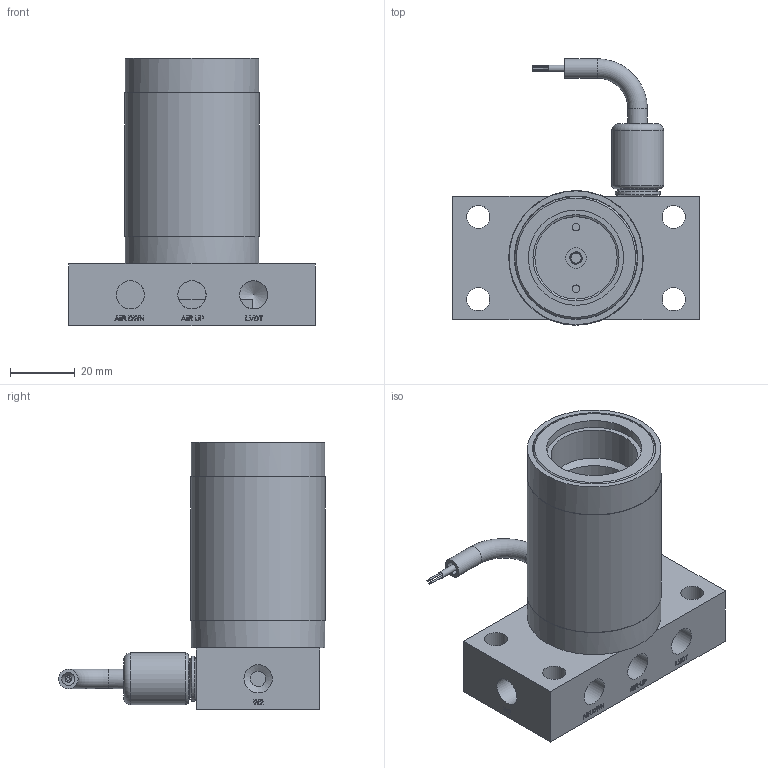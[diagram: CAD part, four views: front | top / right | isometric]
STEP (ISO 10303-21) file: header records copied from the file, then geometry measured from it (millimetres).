
FILE_DESCRIPTION(/* description */ ('ASSY,BODY,VF,LVDT,SXAR4,NHP'),/* implementation_level */ '2;1');
FILE_NAME(/* name */ 'X:\ASSY,BODY,VF,LVDT,SXAR4,NHP_0000594691.stp',/* time_stamp */ '2021-04-13T13:04:02-04:00',/* author */ ('-'),/* organization */ (''),/* preprocessor_version */ 'ST-DEVELOPER v17',/* originating_system */ 'Autodesk Inventor 2019',/* authorisation */ '');
FILE_SCHEMA (('AUTOMOTIVE_DESIGN { 1 0 10303 214 3 1 1 }'));
Length unit declared in the file: millimetre
Products named in the file (1): ASSY,BODY,VF,LVDT,SXAR4,NHP
Bounding box: 76.2 x 82.34 x 82.55 mm (x, y, z)
Volume: 107417.2 mm3; surface area: 54357.4 mm2
Topology: 2 solids, 11 shells, 1223 faces, 3251 edges, 2164 vertices
Faces by surface type: plane 627, bspline 405, cylinder 138, cone 39, torus 8, sphere 6
Full cylindrical faces by diameter (mm): 0.5 x4, 2 x1, 2.381 x2, 3.15 x2, 3.175 x2, 3.81 x1, 4 x3, 6 x3, 6.35 x1, 7.144 x4, 8 x1, 8.731 x8, 10 x1, 12.01 x1, 12.141 x1, 12.7 x2, 13.665 x1, 13.716 x1, 14 x2, 15.206 x1, 16 x1, 25.425 x1, 26.591 x1, 29.369 x1, 35.103 x3, 37.846 x4, 38.1 x2, 41.275 x2, 41.529 x1
Entity records: 98767 total; most frequent: CARTESIAN_POINT 69933, ORIENTED_EDGE 6490, DIRECTION 4214, EDGE_CURVE 3245, VERTEX_POINT 2164, LINE 1756, VECTOR 1756, EDGE_LOOP 1367
